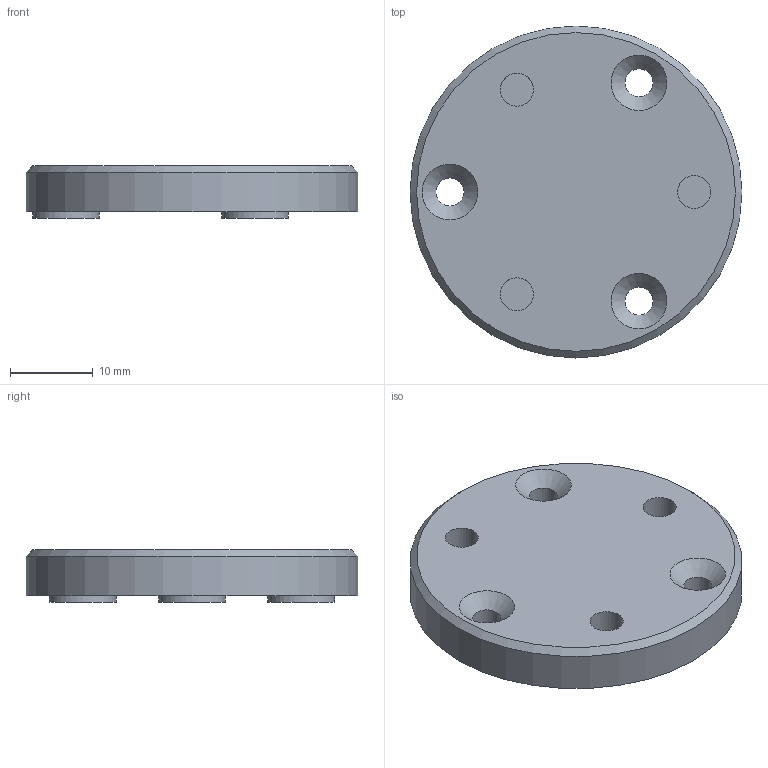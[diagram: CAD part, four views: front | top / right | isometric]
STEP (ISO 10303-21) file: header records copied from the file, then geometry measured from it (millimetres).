
FILE_DESCRIPTION(/* description */ ('STEP AP242 Edition 2','CAx-IF Rec.Pracs.---Representation and Presentation of Product Manufacturing Information (PMI)---4.0---2014-10-13','CAx-IF Rec.Pracs.---3D Tessellated Geometry---0.4---2014-09-14','2;1','CAx-IF Rec.Pracs.---User Defined Attributes---1.5---2016-08-15'),/* implementation_level */ '2;1');
FILE_NAME(/* name */ 'Main - Output',/* time_stamp */ '2026-09-22T02:10:48Z',/* author */ (''),/* organization */ (''),/* preprocessor_version */ 'ST-DEVELOPER v20',/* originating_system */ 'ONSHAPE BY PTC INC, 1.221',/* authorisation */ ' ');
FILE_SCHEMA (('AP242_MANAGED_MODEL_BASED_3D_ENGINEERING_MIM_LF { 1 0 10303 442 3 1 4 }'));
Length unit declared in the file: metre
Products named in the file (1): Output
Bounding box: 40.13 x 40.13 x 6.35 mm (x, y, z)
Volume: 6750 mm3; surface area: 3489.2 mm2
Topology: 1 solids, 1 shells, 22 faces, 38 edges, 24 vertices
Faces by surface type: cylinder 10, plane 8, cone 4
Full cylindrical faces by diameter (mm): 3.4 x3, 4 x3, 8.065 x3, 40.132 x1
Entity records: 498 total; most frequent: DIRECTION 94, CARTESIAN_POINT 71, ORIENTED_EDGE 48, EDGE_LOOP 48, FACE_BOUND 48, AXIS2_PLACEMENT_3D 47, EDGE_CURVE 24, VERTEX_POINT 24
